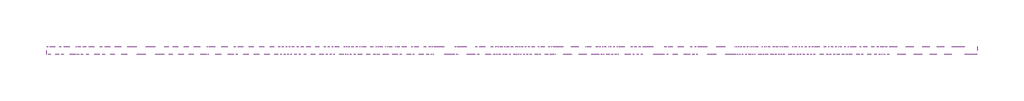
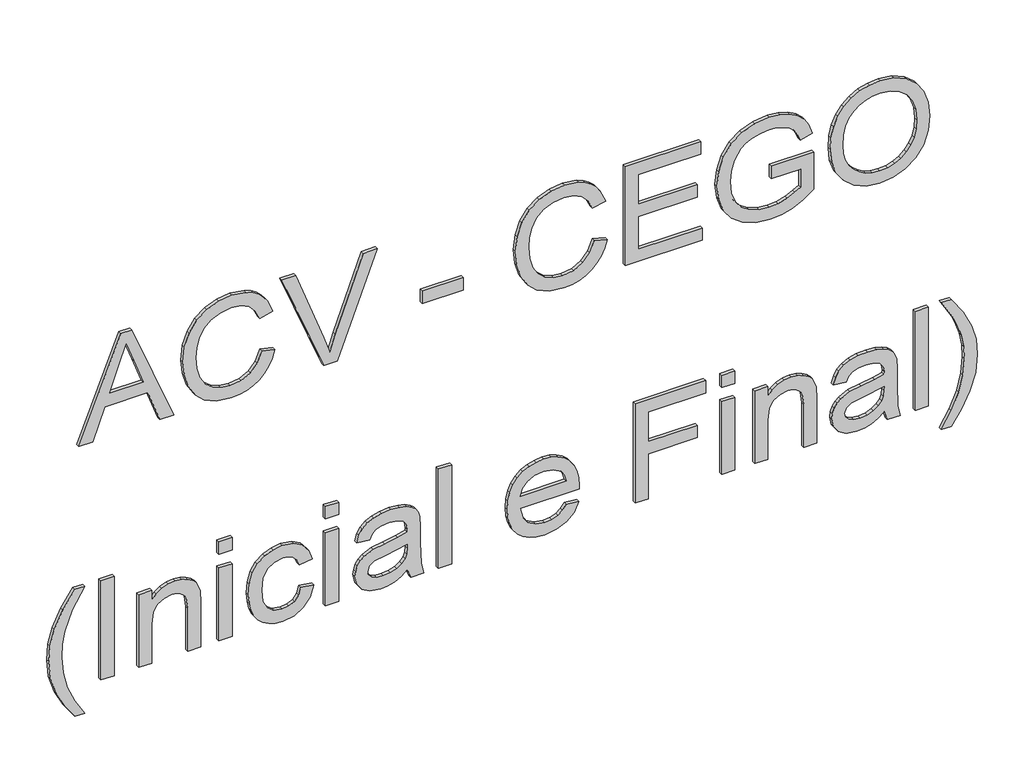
# One storey, part 2 of 12: 1 proxy.
"""IFC4 building model written with IfcOpenShell, lengths in millimetres."""

from ifc_helpers import new_model, si_unit, frame, origin, place, context, project, spatial, polyline, outline, extrude, element, save

model = new_model("IFC4")

# Units and contexts
model_context = context("Model", 3, world=origin())
ifc_project = project(units=[si_unit("LENGTHUNIT", "METRE", prefix="MILLI")], contexts=[model_context])

# Site, building, storey
site = spatial("IfcSite", under=ifc_project)
building = spatial("IfcBuilding", under=site)
storey = spatial("IfcBuildingStorey", under=building, Name="02 - Marelli - Planta Baixa - Painéis Cego", Elevation=12000.0)

# Proxy
placement = place(None, origin())
element("IfcBuildingElementProxy", 1, Name="300mm Arial", ObjectType="300mm Arial", at=placement, inside=storey, context=model_context, shape_type="SweptSolid", body=[
    extrude(outline(polyline([(17965.9244535, 2627.3831765), (17965.9244535, 2667.1880084), (18060.1022443, 2701.6217631), (18060.1022443, 2825.7451483), (17965.9244535, 2860.2524794), (17965.9244535, 2900.0573113), (18267.293384, 2779.7598989), (18267.293384, 2747.6805889), (17965.9244535, 2627.3831765)]), holes=[polyline([(18097.7733606, 2715.4541261), (18178.3395176, 2744.9582621), (18229.6222677, 2763.7202439), (18171.8647944, 2784.8366704), (18097.7733606, 2811.9863617), (18097.7733606, 2715.4541261)])]), frame((0.0, 8778.3159498, 0.0), z_axis=(0.0, 1.0, 0.0), x_axis=(0.0, 0.0, 1.0)), (0.0, 0.0, 1.0), 10.0),
    extrude(outline(polyline([(18073.0516905, 3152.2036308), (18040.7884396, 3140.0175397), (18017.5750857, 3120.2346854), (18003.5587816, 3094.0322903), (17998.8866803, 3062.5875768), (18002.3171799, 3035.6126295), (18012.6086787, 3010.6058509), (18029.8347531, 2989.7469417), (18054.0689796, 2975.2156029), (18084.1617268, 2966.6899377), (18118.9633635, 2963.8480493), (18147.3822477, 2966.2484793), (18174.9550032, 2973.4497693), (18199.3455795, 2986.5739595), (18218.2179258, 3006.7430899), (18230.3028494, 3033.3225641), (18234.3311572, 3065.6777855), (18230.6983225, 3093.7471818), (18219.7998184, 3116.5926537), (18200.9550632, 3134.4349304), (18173.4834752, 3147.4947413), (18182.4597959, 3185.1658576), (18220.278065, 3168.5283943), (18235.6003501, 3156.7262801), (18248.5314022, 3142.6019107), (18258.7999084, 3126.4220007), (18266.1345557, 3108.4532645), (18272.0022735, 3067.1493135), (18267.4681279, 3029.2942562), (18253.8656912, 2994.7501369), (18231.526057, 2965.6230799), (18200.7803193, 2944.0192097), (18162.8332915, 2930.6375022), (18118.8897871, 2926.176933), (18077.2271512, 2930.1224674), (18038.3236302, 2941.9590706), (18005.2326447, 2961.3464517), (17981.0076153, 2987.94432), (17966.1635768, 3022.6447891), (17961.215564, 3066.3399731), (17962.8503396, 3088.7623807), (17967.7546665, 3109.3821666), (17975.9285445, 3128.1993306), (17987.3719739, 3145.2138729), (18001.9286046, 3160.0901011), (18019.4420868, 3172.4923228), (18039.9124206, 3182.4205382), (18063.3396059, 3189.8747471), (18073.0516905, 3152.2036308)])), frame((0.0, 8778.3159498, 0.0), z_axis=(0.0, 1.0, 0.0), x_axis=(0.0, 0.0, 1.0)), (0.0, 0.0, 1.0), 10.0),
    extrude(outline(polyline([(17965.9244535, 3330.6999749), (17965.9244535, 3369.6218899), (18267.293384, 3484.4746488), (18267.293384, 3444.1547822), (18050.1694304, 3363.6622016), (18001.2411251, 3347.6225466), (18050.1694304, 3331.3621624), (18267.293384, 3251.0903111), (18267.293384, 3210.7704444), (17965.9244535, 3330.6999749)])), frame((0.0, 8778.3159498, 0.0), z_axis=(0.0, 1.0, 0.0), x_axis=(0.0, 0.0, 1.0)), (0.0, 0.0, 1.0), 10.0),
    extrude(outline(polyline([(3731.397044, 8778.3159498), (3613.6748055, 8778.3159498), (3613.6748055, 8788.3159498), (3731.397044, 8788.3159498), (3731.397044, 8778.3159498)])), frame((0.0, 0.0, 18055.3933548), z_axis=(0.0, 0.0, 1.0), x_axis=(1.0, 0.0, 0.0)), (0.0, 0.0, 1.0), 37.6711163),
    extrude(outline(polyline([(18073.0516905, 4108.1082071), (18040.7884396, 4095.922116), (18017.5750857, 4076.1392617), (18003.5587816, 4049.9368666), (17998.8866803, 4018.492153), (18002.3171799, 3991.5172057), (18012.6086787, 3966.5104271), (18029.8347531, 3945.651518), (18054.0689796, 3931.1201792), (18084.1617268, 3922.5945139), (18118.9633635, 3919.7526255), (18147.3822477, 3922.1530556), (18174.9550032, 3929.3543456), (18199.3455795, 3942.4785358), (18218.2179258, 3962.6476662), (18230.3028494, 3989.2271403), (18234.3311572, 4021.5823618), (18230.6983225, 4049.651758), (18219.7998184, 4072.4972299), (18200.9550632, 4090.3395067), (18173.4834752, 4103.3993175), (18182.4597959, 4141.0704338), (18220.278065, 4124.4329706), (18235.6003501, 4112.6308563), (18248.5314022, 4098.506487), (18258.7999084, 4082.326577), (18266.1345557, 4064.3578408), (18272.0022735, 4023.0538898), (18267.4681279, 3985.1988325), (18253.8656912, 3950.6547131), (18231.526057, 3921.5276562), (18200.7803193, 3899.923786), (18162.8332915, 3886.5420784), (18118.8897871, 3882.0815092), (18077.2271512, 3886.0270436), (18038.3236302, 3897.8636468), (18005.2326447, 3917.251028), (17981.0076153, 3943.8488962), (17966.1635768, 3978.5493654), (17961.215564, 4022.2445494), (17962.8503396, 4044.666957), (17967.7546665, 4065.2867428), (17975.9285445, 4084.1039069), (17987.3719739, 4101.1184492), (18001.9286046, 4115.9946773), (18019.4420868, 4128.3968991), (18039.9124206, 4138.3251144), (18063.3396059, 4145.7793234), (18073.0516905, 4108.1082071)])), frame((0.0, 8778.3159498, 0.0), z_axis=(0.0, 1.0, 0.0), x_axis=(0.0, 0.0, 1.0)), (0.0, 0.0, 1.0), 10.0),
    extrude(outline(polyline([(17965.9244535, 4197.5771083), (17965.9244535, 4418.8949166), (18003.5955698, 4418.8949166), (18003.5955698, 4235.2482246), (18102.4822501, 4235.2482246), (18102.4822501, 4404.768248), (18140.1533665, 4404.768248), (18140.1533665, 4235.2482246), (18229.6222677, 4235.2482246), (18229.6222677, 4414.1860271), (18267.293384, 4414.1860271), (18267.293384, 4197.5771083), (17965.9244535, 4197.5771083)])), frame((0.0, 8778.3159498, 0.0), z_axis=(0.0, 1.0, 0.0), x_axis=(0.0, 0.0, 1.0)), (0.0, 0.0, 1.0), 10.0),
    extrude(outline(polyline([(18083.646692, 4616.6682772), (18083.646692, 4701.4282889), (18029.2001567, 4701.4282889), (18018.55917, 4685.3794368), (18008.5619768, 4663.278926), (18001.3055044, 4637.830689), (17998.8866803, 4611.7386585), (18002.0964507, 4582.1885372), (18011.7257619, 4554.312279), (18027.967752, 4530.4919198), (18051.015559, 4513.1094956), (18080.6576508, 4502.4869029), (18116.6824952, 4498.9460387), (18147.4006418, 4501.8890947), (18175.83792, 4510.7182626), (18204.8638094, 4530.1056437), (18216.8015801, 4544.545012), (18226.2009651, 4562.9207177), (18232.2986092, 4585.1499873), (18234.3311572, 4611.1500473), (18232.445762, 4633.3609227), (18226.7895763, 4653.4932649), (18217.9971966, 4670.3790485), (18206.7032194, 4682.8502481), (18191.7212251, 4692.2772243), (18171.8647944, 4700.0303373), (18181.6504555, 4734.7583977), (18209.4899255, 4725.1658746), (18231.4984659, 4711.9865021), (18248.494614, 4694.1718165), (18261.2969075, 4670.6733541), (18269.325932, 4642.7695048), (18272.0022735, 4611.7386585), (18267.3853545, 4569.4690172), (18253.5345974, 4532.4233003), (18230.1832877, 4502.0086564), (18197.0647111, 4479.632234), (18157.581776, 4465.8642503), (18115.1373908, 4461.2749224), (18072.9965082, 4465.8826444), (18035.0126922, 4479.7058104), (18003.3472495, 4502.5696764), (17980.1614867, 4534.2994985), (17965.9520447, 4572.4948466), (17961.215564, 4614.7552908), (17964.1954082, 4647.1013152), (17973.1349406, 4678.6563934), (17987.9789791, 4709.3469488), (18008.6723414, 4739.0994052), (18121.3178083, 4739.0994052), (18121.3178083, 4616.6682772), (18083.646692, 4616.6682772)])), frame((0.0, 8778.3159498, 0.0), z_axis=(0.0, 1.0, 0.0), x_axis=(0.0, 0.0, 1.0)), (0.0, 0.0, 1.0), 10.0),
    extrude(outline(polyline([(18112.6357932, 4786.1883006), (18074.0909572, 4790.4925199), (18037.6246544, 4803.405178), (18005.9316205, 4824.6687573), (17981.7065911, 4854.0257405), (17966.3383208, 4889.6735058), (17961.215564, 4929.8094315), (17965.8508771, 4967.6185035), (17979.7568166, 5002.7604311), (18002.6758649, 5032.7244196), (18034.3505046, 5054.9996745), (18072.8125672, 5068.8228404), (18116.093884, 5073.4305624), (18158.8049836, 5069.0527667), (18196.7336173, 5055.9193794), (18228.3530748, 5034.4350709), (18252.1366458, 5005.0045113), (18267.0358666, 4969.5590811), (18272.0022735, 4930.0301607), (18269.3581217, 4899.7396769), (18261.4256662, 4872.3646579), (18248.204907, 4847.9051038), (18229.6958441, 4826.3610144), (18206.5146799, 4808.7854521), (18179.2776166, 4796.231479), (18147.9846544, 4788.6990952), (18112.6357932, 4786.1883006)]), holes=[polyline([(18112.2679112, 4823.8594169), (18142.8044161, 4825.822987), (18168.6366299, 4831.7136975), (18189.7645528, 4841.5315482), (18206.1881846, 4855.2765393), (18218.5007351, 4871.7438571), (18227.2954141, 4889.7286881), (18232.5722214, 4909.2310324), (18234.3311572, 4930.2508899), (18230.6799284, 4959.4147351), (18219.726242, 4985.5435538), (18202.1322856, 5007.2026062), (18178.5602467, 5022.9571527), (18149.7366924, 5032.5588727), (18116.3881896, 5035.7594461), (18089.8501021, 5033.8901457), (18066.5217851, 5028.2822446), (18046.4032385, 5018.9357426), (18029.4944623, 5005.8506399), (18016.1035577, 4989.8684665), (18006.5386258, 4971.8307524), (18000.7996667, 4951.7374977), (17998.8866803, 4929.5887023), (18000.7812726, 4907.8123874), (18006.4650494, 4887.9536575), (18015.9380108, 4870.0125124), (18029.2001567, 4853.9889523), (18045.759445, 4840.8072805), (18065.1238335, 4831.3918007), (18087.2933223, 4825.7425128), (18112.2679112, 4823.8594169)])]), frame((0.0, 8778.3159498, 0.0), z_axis=(0.0, 1.0, 0.0), x_axis=(0.0, 0.0, 1.0)), (0.0, 0.0, 1.0), 10.0),
    extrude(outline(polyline([(17149.3155348, 2615.3902234), (17149.3155348, 2643.6435607), (17197.5540614, 2614.8016122), (17245.8109821, 2594.2002205), (17294.0862969, 2581.8393855), (17342.3800058, 2577.7191071), (17380.2534572, 2580.091946), (17417.9429677, 2587.2104626), (17475.7740173, 2608.4004655), (17535.4444769, 2643.6435607), (17535.4444769, 2615.3902234), (17484.934279, 2580.6989513), (17434.2033518, 2556.3819514), (17389.4137189, 2544.131481), (17342.600735, 2540.0479908), (17289.2210575, 2545.5110385), (17237.68079, 2561.9001813), (17190.2791949, 2586.1987871), (17149.3155348, 2615.3902234)])), frame((0.0, 8778.3159498, 0.0), z_axis=(0.0, 1.0, 0.0), x_axis=(0.0, 0.0, 1.0)), (0.0, 0.0, 1.0), 10.0),
    extrude(outline(polyline([(2728.4035724, 8778.3159498), (2690.732456, 8778.3159498), (2690.732456, 8788.3159498), (2728.4035724, 8788.3159498), (2728.4035724, 8778.3159498)])), frame((0.0, 0.0, 17234.0755465), z_axis=(0.0, 0.0, 1.0), x_axis=(1.0, 0.0, 0.0)), (0.0, 0.0, 1.0), 301.3689304),
    extrude(outline(polyline([(17234.0755465, 2799.0369154), (17234.0755465, 2836.7080317), (17351.5034793, 2836.7080317), (17386.2131456, 2841.003054), (17398.5877762, 2846.3718319), (17407.6422718, 2853.8881209), (17418.7339139, 2872.6960879), (17422.431128, 2894.7598106), (17420.7848561, 2908.6565529), (17415.8460403, 2920.6219148), (17408.1481095, 2929.9569205), (17398.2244927, 2935.962594), (17364.8943839, 2940.3036016), (17234.0755465, 2940.3036016), (17234.0755465, 2977.9747179), (17369.9711555, 2977.9747179), (17406.391473, 2975.9881551), (17434.0929872, 2964.6941779), (17444.6328064, 2954.5958171), (17452.9285454, 2940.4139662), (17458.3088196, 2923.4086209), (17460.1022443, 2904.8397772), (17457.8765582, 2883.8613065), (17451.1995, 2865.513192), (17440.0710697, 2849.7954337), (17424.4912672, 2836.7080317), (17455.3933548, 2836.7080317), (17455.3933548, 2799.0369154), (17234.0755465, 2799.0369154)])), frame((0.0, 8778.3159498, 0.0), z_axis=(0.0, 1.0, 0.0), x_axis=(0.0, 0.0, 1.0)), (0.0, 0.0, 1.0), 10.0),
    extrude(outline(polyline([(3067.4436191, 8778.3159498), (3029.7725028, 8778.3159498), (3029.7725028, 8788.3159498), (3067.4436191, 8788.3159498), (3067.4436191, 8778.3159498)])), frame((0.0, 0.0, 17497.7733606), z_axis=(0.0, 0.0, 1.0), x_axis=(1.0, 0.0, 0.0)), (0.0, 0.0, 1.0), 37.6711163),
    extrude(outline(polyline([(3067.4436191, 8778.3159498), (3029.7725028, 8778.3159498), (3029.7725028, 8788.3159498), (3067.4436191, 8788.3159498), (3067.4436191, 8778.3159498)])), frame((0.0, 0.0, 17234.0755465), z_axis=(0.0, 0.0, 1.0), x_axis=(1.0, 0.0, 0.0)), (0.0, 0.0, 1.0), 221.3178083),
    extrude(outline(polyline([(17314.1266686, 3265.2169797), (17293.2493654, 3258.7882419), (17278.5892679, 3247.1539738), (17269.9256469, 3231.160304), (17267.0377732, 3211.6533612), (17271.6638893, 3187.6214699), (17285.5422376, 3168.647956), (17309.6477053, 3156.3147121), (17344.9551798, 3152.2036308), (17379.7936048, 3156.4066826), (17403.816299, 3169.015838), (17417.7774208, 3188.3388398), (17422.431128, 3212.6834308), (17420.0674862, 3229.1737412), (17412.9765607, 3243.0336954), (17401.1951398, 3253.6746821), (17384.7600117, 3260.5080902), (17389.4689012, 3298.1792065), (17419.4512838, 3287.9244959), (17441.7081445, 3269.6683519), (17455.5037194, 3244.2201148), (17460.1022443, 3212.3891252), (17456.7545181, 3185.7452717), (17446.7113397, 3161.1431633), (17429.9635118, 3140.5785598), (17406.5018376, 3126.0472209), (17377.448357, 3117.4111911), (17343.9251102, 3114.5325145), (17317.8675687, 3116.2178739), (17295.024396, 3121.2739521), (17275.3955923, 3129.700749), (17258.9811575, 3141.4982647), (17246.0248135, 3156.0732895), (17236.7702821, 3172.8326137), (17231.2175632, 3191.7762372), (17229.3666569, 3212.90416), (17234.6733547, 3245.535293), (17250.593448, 3272.648196), (17275.9129264, 3292.3850651), (17309.4177791, 3302.888096), (17314.1266686, 3265.2169797)])), frame((0.0, 8778.3159498, 0.0), z_axis=(0.0, 1.0, 0.0), x_axis=(0.0, 0.0, 1.0)), (0.0, 0.0, 1.0), 10.0),
    extrude(outline(polyline([(3373.5214391, 8778.3159498), (3335.8503228, 8778.3159498), (3335.8503228, 8788.3159498), (3373.5214391, 8788.3159498), (3373.5214391, 8778.3159498)])), frame((0.0, 0.0, 17497.7733606), z_axis=(0.0, 0.0, 1.0), x_axis=(1.0, 0.0, 0.0)), (0.0, 0.0, 1.0), 37.6711163),
    extrude(outline(polyline([(3373.5214391, 8778.3159498), (3335.8503228, 8778.3159498), (3335.8503228, 8788.3159498), (3373.5214391, 8788.3159498), (3373.5214391, 8778.3159498)])), frame((0.0, 0.0, 17234.0755465), z_axis=(0.0, 0.0, 1.0), x_axis=(1.0, 0.0, 0.0)), (0.0, 0.0, 1.0), 221.3178083),
    extrude(outline(polyline([(17262.3288837, 3571.2947997), (17234.0755465, 3580.7125788), (17234.0755465, 3618.3836951), (17265.7501862, 3610.8789024), (17331.1963932, 3608.965916), (17378.0645594, 3608.965916), (17411.0267861, 3607.126506), (17425.1442577, 3602.5831634), (17436.5945848, 3595.5750114), (17445.856014, 3585.0076011), (17453.406792, 3569.7864835), (17458.4283812, 3549.598959), (17460.1022443, 3524.1323279), (17458.207652, 3497.5804449), (17452.5238752, 3474.4314704), (17443.3452194, 3455.5039417), (17430.9659903, 3441.6163964), (17414.7791825, 3431.8583265), (17394.1777908, 3425.319224), (17389.4689012, 3462.9903403), (17405.1314772, 3470.4767389), (17415.1838527, 3481.1637109), (17420.6193092, 3496.8354839), (17422.431128, 3519.2762856), (17419.7088012, 3543.5197091), (17411.5418209, 3560.9205274), (17400.5421493, 3568.7012316), (17383.7299421, 3571.2947997), (17375.3422326, 3571.0740705), (17368.3524747, 3544.2554731), (17362.3927864, 3505.7382282), (17356.7274037, 3473.1438834), (17344.3665686, 3446.7667443), (17334.8752131, 3436.1625458), (17322.7351073, 3427.8208216), (17308.5532564, 3422.4129563), (17292.9366657, 3420.6103345), (17267.6079903, 3425.3836034), (17247.2457219, 3439.70341), (17233.8364232, 3462.925961), (17229.3666569, 3494.4074627), (17231.224461, 3515.2755689), (17236.7978732, 3534.7641176), (17246.896234, 3553.2961731), (17262.3288837, 3571.2947997)]), holes=[polyline([(17337.6711163, 3571.2947997), (17327.0025384, 3571.0740705), (17310.0799667, 3569.5841484), (17297.8662844, 3565.1143822), (17286.0112871, 3555.0344155), (17276.0508821, 3540.5398649), (17269.2910505, 3522.6607999), (17267.0377732, 3502.4272902), (17269.0795183, 3483.3434117), (17275.2047535, 3469.5018516), (17284.3834093, 3461.086551), (17295.5854161, 3458.2814508), (17310.0799667, 3463.4317987), (17320.0127805, 3478.1102903), (17326.1196217, 3510.5206941), (17337.6711163, 3571.2947997)])]), frame((0.0, 8778.3159498, 0.0), z_axis=(0.0, 1.0, 0.0), x_axis=(0.0, 0.0, 1.0)), (0.0, 0.0, 1.0), 10.0),
    extrude(outline(polyline([(3698.4348172, 8778.3159498), (3660.7637009, 8778.3159498), (3660.7637009, 8788.3159498), (3698.4348172, 8788.3159498), (3698.4348172, 8778.3159498)])), frame((0.0, 0.0, 17234.0755465), z_axis=(0.0, 0.0, 1.0), x_axis=(1.0, 0.0, 0.0)), (0.0, 0.0, 1.0), 301.3689304),
    extrude(outline(polyline([(17300.0, 4027.6156265), (17285.1191733, 4017.0574133), (17274.9104479, 4003.3354148), (17269.0059419, 3986.4496313), (17267.0377732, 3966.4000625), (17271.2868103, 3939.7378149), (17284.0339214, 3917.8764274), (17304.7640718, 3902.7288862), (17332.9622268, 3896.2081778), (17332.9622268, 4065.507472), (17343.1157698, 4065.7282012), (17369.3687487, 4063.9416743), (17392.5039277, 4058.5820935), (17412.5213067, 4049.6494588), (17429.4208859, 4037.1437702), (17442.8439802, 4021.8237844), (17452.4319047, 4004.4482579), (17458.1846594, 3985.0171907), (17460.1022443, 3963.530583), (17458.1800609, 3941.3289046), (17452.4135106, 3921.2977299), (17442.8025935, 3903.437059), (17429.3473095, 3887.746892), (17412.4109422, 3874.9675911), (17392.3567749, 3865.8395191), (17369.1848077, 3860.3626759), (17342.8950406, 3858.5370615), (17317.467497, 3860.3442818), (17295.0427901, 3865.7659427), (17275.62092, 3874.8020442), (17259.2018867, 3887.4525864), (17246.1489737, 3903.1841402), (17236.8254644, 3921.4632768), (17231.2313588, 3942.2899963), (17229.3666569, 3965.6642985), (17233.6892704, 4001.3212609), (17246.6571107, 4030.0068595), (17267.4608375, 4051.2428477), (17295.2911105, 4064.5509788), (17300.0, 4027.6156265)]), holes=[polyline([(17370.6333431, 3896.2081778), (17391.8693312, 3902.3977924), (17408.3412476, 3916.9935106), (17418.9086579, 3937.9903754), (17422.431128, 3963.3834302), (17418.0165441, 3991.011368), (17404.7727922, 4012.9739231), (17390.535759, 4022.9619193), (17370.6333431, 4028.0570849), (17370.6333431, 3896.2081778)])]), frame((0.0, 8778.3159498, 0.0), z_axis=(0.0, 1.0, 0.0), x_axis=(0.0, 0.0, 1.0)), (0.0, 0.0, 1.0), 10.0),
    extrude(outline(polyline([(17234.0755465, 4225.8304455), (17234.0755465, 4263.5015618), (17370.6333431, 4263.5015618), (17370.6333431, 4404.768248), (17408.3044594, 4404.768248), (17408.3044594, 4263.5015618), (17497.7733606, 4263.5015618), (17497.7733606, 4428.3126957), (17535.4444769, 4428.3126957), (17535.4444769, 4225.8304455), (17234.0755465, 4225.8304455)])), frame((0.0, 8778.3159498, 0.0), z_axis=(0.0, 1.0, 0.0), x_axis=(0.0, 0.0, 1.0)), (0.0, 0.0, 1.0), 10.0),
    extrude(outline(polyline([(4513.0727074, 8778.3159498), (4475.4015911, 8778.3159498), (4475.4015911, 8788.3159498), (4513.0727074, 8788.3159498), (4513.0727074, 8778.3159498)])), frame((0.0, 0.0, 17497.7733606), z_axis=(0.0, 0.0, 1.0), x_axis=(1.0, 0.0, 0.0)), (0.0, 0.0, 1.0), 37.6711163),
    extrude(outline(polyline([(4513.0727074, 8778.3159498), (4475.4015911, 8778.3159498), (4475.4015911, 8788.3159498), (4513.0727074, 8788.3159498), (4513.0727074, 8778.3159498)])), frame((0.0, 0.0, 17234.0755465), z_axis=(0.0, 0.0, 1.0), x_axis=(1.0, 0.0, 0.0)), (0.0, 0.0, 1.0), 221.3178083),
    extrude(outline(polyline([(17234.0755465, 4569.5793818), (17234.0755465, 4607.2504981), (17351.5034793, 4607.2504981), (17386.2131456, 4611.5455204), (17398.5877762, 4616.9142983), (17407.6422718, 4624.4305873), (17418.7339139, 4643.2385543), (17422.431128, 4665.302277), (17420.7848561, 4679.1990193), (17415.8460403, 4691.1643812), (17408.1481095, 4700.4993868), (17398.2244927, 4706.5050604), (17364.8943839, 4710.846068), (17234.0755465, 4710.846068), (17234.0755465, 4748.5171843), (17369.9711555, 4748.5171843), (17406.391473, 4746.5306215), (17434.0929872, 4735.2366442), (17444.6328064, 4725.1382835), (17452.9285454, 4710.9564326), (17458.3088196, 4693.9510873), (17460.1022443, 4675.3822436), (17457.8765582, 4654.4037729), (17451.1995, 4636.0556583), (17440.0710697, 4620.3379001), (17424.4912672, 4607.2504981), (17455.3933548, 4607.2504981), (17455.3933548, 4569.5793818), (17234.0755465, 4569.5793818)])), frame((0.0, 8778.3159498, 0.0), z_axis=(0.0, 1.0, 0.0), x_axis=(0.0, 0.0, 1.0)), (0.0, 0.0, 1.0), 10.0),
    extrude(outline(polyline([(17262.3288837, 4941.5816553), (17234.0755465, 4950.9994344), (17234.0755465, 4988.6705507), (17265.7501862, 4981.165758), (17331.1963932, 4979.2527716), (17378.0645594, 4979.2527716), (17411.0267861, 4977.4133617), (17425.1442577, 4972.870019), (17436.5945848, 4965.861867), (17445.856014, 4955.2944567), (17453.406792, 4940.0733392), (17458.4283812, 4919.8858147), (17460.1022443, 4894.4191836), (17458.207652, 4867.8673006), (17452.5238752, 4844.718326), (17443.3452194, 4825.7907974), (17430.9659903, 4811.903252), (17414.7791825, 4802.1451821), (17394.1777908, 4795.6060797), (17389.4689012, 4833.277196), (17405.1314772, 4840.7635946), (17415.1838527, 4851.4505665), (17420.6193092, 4867.1223395), (17422.431128, 4889.5631412), (17419.7088012, 4913.8065647), (17411.5418209, 4931.2073831), (17400.5421493, 4938.9880873), (17383.7299421, 4941.5816553), (17375.3422326, 4941.3609261), (17368.3524747, 4914.5423287), (17362.3927864, 4876.0250838), (17356.7274037, 4843.430739), (17344.3665686, 4817.0536), (17334.8752131, 4806.4494015), (17322.7351073, 4798.1076772), (17308.5532564, 4792.6998119), (17292.9366657, 4790.8971901), (17267.6079903, 4795.670459), (17247.2457219, 4809.9902657), (17233.8364232, 4833.2128166), (17229.3666569, 4864.6943183), (17231.224461, 4885.5624245), (17236.7978732, 4905.0509732), (17246.896234, 4923.5830287), (17262.3288837, 4941.5816553)]), holes=[polyline([(17337.6711163, 4941.5816553), (17327.0025384, 4941.3609261), (17310.0799667, 4939.8710041), (17297.8662844, 4935.4012378), (17286.0112871, 4925.3212712), (17276.0508821, 4910.8267205), (17269.2910505, 4892.9476556), (17267.0377732, 4872.7141458), (17269.0795183, 4853.6302673), (17275.2047535, 4839.7887073), (17284.3834093, 4831.3734066), (17295.5854161, 4828.5683064), (17310.0799667, 4833.7186544), (17320.0127805, 4848.397146), (17326.1196217, 4880.8075497), (17337.6711163, 4941.5816553)])]), frame((0.0, 8778.3159498, 0.0), z_axis=(0.0, 1.0, 0.0), x_axis=(0.0, 0.0, 1.0)), (0.0, 0.0, 1.0), 10.0),
    extrude(outline(polyline([(5068.7216729, 8778.3159498), (5031.0505566, 8778.3159498), (5031.0505566, 8788.3159498), (5068.7216729, 8788.3159498), (5068.7216729, 8778.3159498)])), frame((0.0, 0.0, 17234.0755465), z_axis=(0.0, 0.0, 1.0), x_axis=(1.0, 0.0, 0.0)), (0.0, 0.0, 1.0), 301.3689304),
    extrude(outline(polyline([(17149.3155348, 5134.6461264), (17190.2791949, 5163.699607), (17237.68079, 5188.0258039), (17289.2210575, 5204.4977202), (17342.600735, 5209.988359), (17389.4137189, 5205.9048689), (17434.2033518, 5193.6543984), (17484.934279, 5169.3373986), (17535.4444769, 5134.6461264), (17535.4444769, 5106.3927892), (17475.1854061, 5141.8566135), (17446.8400984, 5153.8311725), (17417.2807801, 5162.8258872), (17379.9775458, 5169.9444038), (17342.3800058, 5172.3172427), (17294.0862969, 5168.1969644), (17245.8109821, 5155.8361293), (17197.5540614, 5135.2347376), (17149.3155348, 5106.3927892), (17149.3155348, 5134.6461264)])), frame((0.0, 8778.3159498, 0.0), z_axis=(0.0, 1.0, 0.0), x_axis=(0.0, 0.0, 1.0)), (0.0, 0.0, 1.0), 10.0),
])

save(model, "model.ifc")
